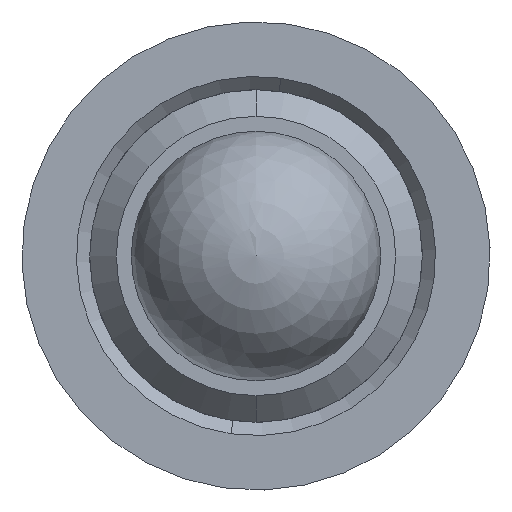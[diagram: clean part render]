
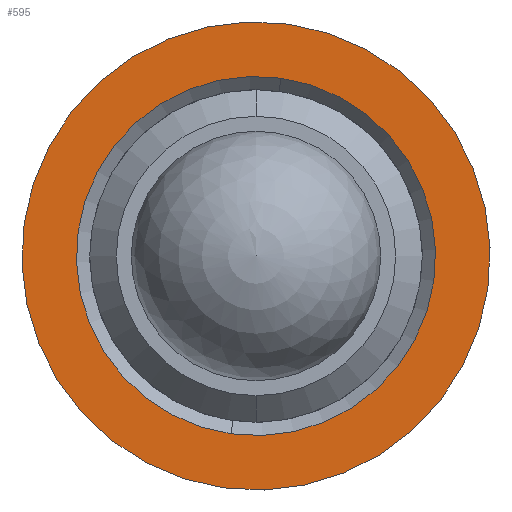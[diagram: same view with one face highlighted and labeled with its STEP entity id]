
A CAD part, left-side view. The second image highlights one B-rep face of the part: STEP entity #595.
In plain terms, the highlighted planar face has unit normal (-1, 0, 0).
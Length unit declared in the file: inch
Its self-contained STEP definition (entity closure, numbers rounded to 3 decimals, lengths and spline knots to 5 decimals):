
#15 = AXIS2_PLACEMENT_3D ( 'NONE', #359, #1190, #1201 ) ;
#44 = DIRECTION ( 'NONE',  ( -1., 0., 0. ) ) ;
#73 = VERTEX_POINT ( 'NONE', #597 ) ;
#96 = AXIS2_PLACEMENT_3D ( 'NONE', #1496, #1486, #1480 ) ;
#135 = DIRECTION ( 'NONE',  ( 0., -0.139, 0.99 ) ) ;
#141 = CARTESIAN_POINT ( 'NONE',  ( -0.12225, 0.54437, 1.03065 ) ) ;
#214 = AXIS2_PLACEMENT_3D ( 'NONE', #1392, #44, #135 ) ;
#245 = AXIS2_PLACEMENT_3D ( 'NONE', #1166, #957, #985 ) ;
#339 = DIRECTION ( 'NONE',  ( 1., 0., 0. ) ) ;
#358 = EDGE_LOOP ( 'NONE', ( #1032, #721 ) ) ;
#359 = CARTESIAN_POINT ( 'NONE',  ( -0.12225, 0.56879, 0.85636 ) ) ;
#450 = EDGE_CURVE ( 'NONE', #1273, #1142, #1104, .T. ) ;
#571 = CIRCLE ( 'NONE', #96, 0.135 ) ;
#595 = ADVANCED_FACE ( 'NONE', ( #926, #984 ), #714, .F. ) ;
#597 = CARTESIAN_POINT ( 'NONE',  ( -0.12225, 0.58753, 0.72266 ) ) ;
#633 = AXIS2_PLACEMENT_3D ( 'NONE', #1093, #339, #1268 ) ;
#646 = CARTESIAN_POINT ( 'NONE',  ( -0.12225, 0.59321, 0.68206 ) ) ;
#714 = PLANE ( 'NONE',  #633 ) ;
#721 = ORIENTED_EDGE ( 'NONE', *, *, #788, .T. ) ;
#788 = EDGE_CURVE ( 'NONE', #73, #1458, #1042, .T. ) ;
#900 = EDGE_LOOP ( 'NONE', ( #1113, #1012 ) ) ;
#926 = FACE_BOUND ( 'NONE', #358, .T. ) ;
#930 = EDGE_CURVE ( 'NONE', #1142, #1273, #1134, .T. ) ;
#957 = DIRECTION ( 'NONE',  ( -1., 0., 0. ) ) ;
#984 = FACE_OUTER_BOUND ( 'NONE', #900, .T. ) ;
#985 = DIRECTION ( 'NONE',  ( 0., -0.139, 0.99 ) ) ;
#993 = CARTESIAN_POINT ( 'NONE',  ( -0.12225, 0.55006, 0.99005 ) ) ;
#1012 = ORIENTED_EDGE ( 'NONE', *, *, #450, .T. ) ;
#1032 = ORIENTED_EDGE ( 'NONE', *, *, #1391, .T. ) ;
#1042 = CIRCLE ( 'NONE', #15, 0.135 ) ;
#1093 = CARTESIAN_POINT ( 'NONE',  ( -0.12225, 0.56879, 0.85636 ) ) ;
#1104 = CIRCLE ( 'NONE', #214, 0.176 ) ;
#1113 = ORIENTED_EDGE ( 'NONE', *, *, #930, .T. ) ;
#1134 = CIRCLE ( 'NONE', #245, 0.176 ) ;
#1142 = VERTEX_POINT ( 'NONE', #141 ) ;
#1166 = CARTESIAN_POINT ( 'NONE',  ( -0.12225, 0.56879, 0.85636 ) ) ;
#1190 = DIRECTION ( 'NONE',  ( 1., 0., 0. ) ) ;
#1201 = DIRECTION ( 'NONE',  ( 0., 0.139, -0.99 ) ) ;
#1268 = DIRECTION ( 'NONE',  ( 0., 0.139, -0.99 ) ) ;
#1273 = VERTEX_POINT ( 'NONE', #646 ) ;
#1391 = EDGE_CURVE ( 'NONE', #1458, #73, #571, .T. ) ;
#1392 = CARTESIAN_POINT ( 'NONE',  ( -0.12225, 0.56879, 0.85636 ) ) ;
#1458 = VERTEX_POINT ( 'NONE', #993 ) ;
#1480 = DIRECTION ( 'NONE',  ( 0., 0.139, -0.99 ) ) ;
#1486 = DIRECTION ( 'NONE',  ( 1., 0., 0. ) ) ;
#1496 = CARTESIAN_POINT ( 'NONE',  ( -0.12225, 0.56879, 0.85636 ) ) ;
